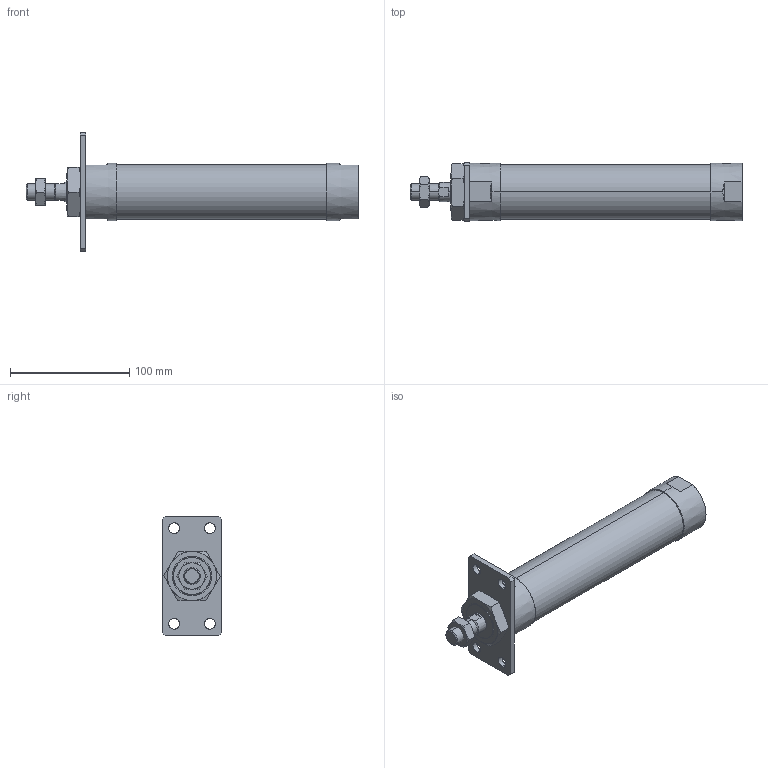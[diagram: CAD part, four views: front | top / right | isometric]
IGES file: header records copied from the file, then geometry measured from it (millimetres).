
Start section: SolidWorks IGES file using analytic representation for surfaces
Global section: file name: C:\Users\Toshiba\Desktop\JGND2-40-125-A.IGS; native system: SolidWorks 2014; preprocessor: SolidWorks 2014; author: Toshiba; date: 160804.111119; units: millimetre
Bounding box: 278 x 50 x 100 mm (x, y, z)
Surface area: 56958.1 mm2 (no closed solid volume)
Topology: 0 solids, 0 shells, 109 faces, 2174 edges, 2170 vertices
Faces by surface type: bspline 66, revolution 43
